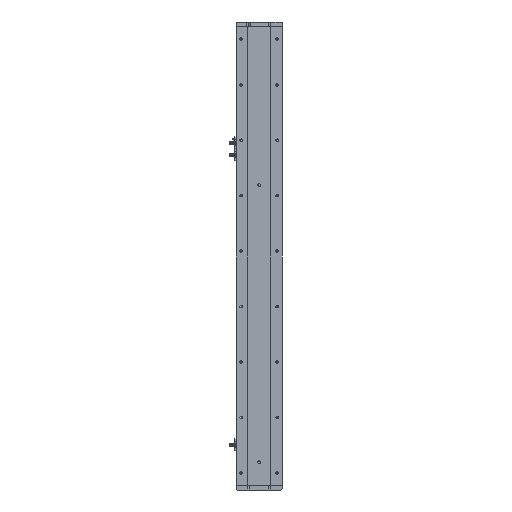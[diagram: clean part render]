
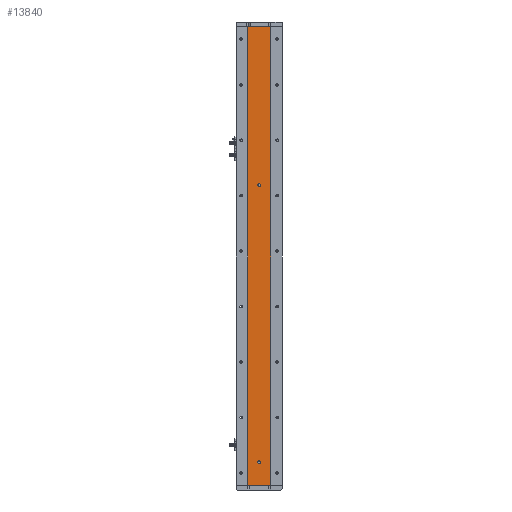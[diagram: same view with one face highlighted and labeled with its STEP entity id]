
A CAD part, left-side view. The second image highlights one B-rep face of the part: STEP entity #13840.
In plain terms, the highlighted planar face has unit normal (-1, 0, 0).
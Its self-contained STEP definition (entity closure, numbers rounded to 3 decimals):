
#526 = VERTEX_POINT ( 'NONE', #23596 ) ;
#791 = DIRECTION ( 'NONE',  ( 0., 0., -1. ) ) ;
#840 = VECTOR ( 'NONE', #791, 1000. ) ;
#1454 = DIRECTION ( 'NONE',  ( -1., 0., 0. ) ) ;
#2564 = DIRECTION ( 'NONE',  ( 0., 0., 1. ) ) ;
#2933 = VERTEX_POINT ( 'NONE', #9147 ) ;
#4996 = AXIS2_PLACEMENT_3D ( 'NONE', #39639, #21113, #2564 ) ;
#4999 = CARTESIAN_POINT ( 'NONE',  ( -18.926, 24.785, 993. ) ) ;
#5229 = FACE_OUTER_BOUND ( 'NONE', #39012, .T. ) ;
#5671 = CARTESIAN_POINT ( 'NONE',  ( -18.926, -24.785, 993. ) ) ;
#6768 = CARTESIAN_POINT ( 'NONE',  ( -18.926, 24.785, 993. ) ) ;
#6938 = CIRCLE ( 'NONE', #27043, 3. ) ;
#7419 = VERTEX_POINT ( 'NONE', #36259 ) ;
#9147 = CARTESIAN_POINT ( 'NONE',  ( -18.926, 0., 653. ) ) ;
#9764 = PLANE ( 'NONE',  #10304 ) ;
#9902 = DIRECTION ( 'NONE',  ( 0., 0., -1. ) ) ;
#10170 = LINE ( 'NONE', #18960, #18363 ) ;
#10304 = AXIS2_PLACEMENT_3D ( 'NONE', #6768, #28445, #9902 ) ;
#10766 = ORIENTED_EDGE ( 'NONE', *, *, #26460, .F. ) ;
#12033 = CIRCLE ( 'NONE', #24397, 3. ) ;
#12511 = FACE_BOUND ( 'NONE', #24652, .T. ) ;
#13652 = DIRECTION ( 'NONE',  ( -1., 0., 0. ) ) ;
#13653 = VECTOR ( 'NONE', #37286, 1000. ) ;
#13804 = VERTEX_POINT ( 'NONE', #34286 ) ;
#13840 = ADVANCED_FACE ( 'NONE', ( #28979, #12511, #5229 ), #9764, .F. ) ;
#14111 = VERTEX_POINT ( 'NONE', #4999 ) ;
#14417 = VERTEX_POINT ( 'NONE', #22629 ) ;
#15625 = EDGE_LOOP ( 'NONE', ( #27151, #10766 ) ) ;
#16426 = ORIENTED_EDGE ( 'NONE', *, *, #29309, .F. ) ;
#17265 = EDGE_CURVE ( 'NONE', #14417, #7419, #6938, .T. ) ;
#17596 = DIRECTION ( 'NONE',  ( -1., 0., 0. ) ) ;
#18363 = VECTOR ( 'NONE', #22235, 1000. ) ;
#18576 = ORIENTED_EDGE ( 'NONE', *, *, #26058, .T. ) ;
#18692 = CARTESIAN_POINT ( 'NONE',  ( -18.926, 24.785, 0. ) ) ;
#18713 = LINE ( 'NONE', #5671, #33286 ) ;
#18960 = CARTESIAN_POINT ( 'NONE',  ( -18.926, 24.785, 993. ) ) ;
#19106 = CARTESIAN_POINT ( 'NONE',  ( -18.926, 0., 647. ) ) ;
#19972 = CARTESIAN_POINT ( 'NONE',  ( -18.926, 0., 50. ) ) ;
#20217 = AXIS2_PLACEMENT_3D ( 'NONE', #32211, #13652, #35311 ) ;
#20527 = ORIENTED_EDGE ( 'NONE', *, *, #32963, .T. ) ;
#20838 = ORIENTED_EDGE ( 'NONE', *, *, #36710, .F. ) ;
#21113 = DIRECTION ( 'NONE',  ( -1., 0., 0. ) ) ;
#22235 = DIRECTION ( 'NONE',  ( 0., -1., 0. ) ) ;
#22423 = VERTEX_POINT ( 'NONE', #34172 ) ;
#22441 = CARTESIAN_POINT ( 'NONE',  ( -18.926, 24.785, 993. ) ) ;
#22629 = CARTESIAN_POINT ( 'NONE',  ( -18.926, 0., 53. ) ) ;
#23107 = DIRECTION ( 'NONE',  ( 0., 0., 1. ) ) ;
#23596 = CARTESIAN_POINT ( 'NONE',  ( -18.926, 24.785, 0. ) ) ;
#24397 = AXIS2_PLACEMENT_3D ( 'NONE', #19972, #1454, #23107 ) ;
#24571 = LINE ( 'NONE', #22441, #840 ) ;
#24652 = EDGE_LOOP ( 'NONE', ( #26247, #36056 ) ) ;
#25699 = CIRCLE ( 'NONE', #4996, 3. ) ;
#26058 = EDGE_CURVE ( 'NONE', #526, #22423, #37409, .T. ) ;
#26247 = ORIENTED_EDGE ( 'NONE', *, *, #17265, .F. ) ;
#26460 = EDGE_CURVE ( 'NONE', #39262, #2933, #25699, .T. ) ;
#27043 = AXIS2_PLACEMENT_3D ( 'NONE', #36188, #17596, #39270 ) ;
#27151 = ORIENTED_EDGE ( 'NONE', *, *, #37257, .F. ) ;
#28445 = DIRECTION ( 'NONE',  ( 1., 0., 0. ) ) ;
#28979 = FACE_BOUND ( 'NONE', #15625, .T. ) ;
#29309 = EDGE_CURVE ( 'NONE', #13804, #22423, #18713, .T. ) ;
#30429 = DIRECTION ( 'NONE',  ( 0., 0., -1. ) ) ;
#32211 = CARTESIAN_POINT ( 'NONE',  ( -18.926, 0., 650. ) ) ;
#32963 = EDGE_CURVE ( 'NONE', #14111, #526, #24571, .T. ) ;
#33286 = VECTOR ( 'NONE', #30429, 1000. ) ;
#34172 = CARTESIAN_POINT ( 'NONE',  ( -18.926, -24.785, 0. ) ) ;
#34286 = CARTESIAN_POINT ( 'NONE',  ( -18.926, -24.785, 993. ) ) ;
#35311 = DIRECTION ( 'NONE',  ( 0., 0., 1. ) ) ;
#36056 = ORIENTED_EDGE ( 'NONE', *, *, #37305, .F. ) ;
#36188 = CARTESIAN_POINT ( 'NONE',  ( -18.926, 0., 50. ) ) ;
#36259 = CARTESIAN_POINT ( 'NONE',  ( -18.926, 0., 47. ) ) ;
#36710 = EDGE_CURVE ( 'NONE', #14111, #13804, #10170, .T. ) ;
#37257 = EDGE_CURVE ( 'NONE', #2933, #39262, #37735, .T. ) ;
#37286 = DIRECTION ( 'NONE',  ( 0., -1., 0. ) ) ;
#37305 = EDGE_CURVE ( 'NONE', #7419, #14417, #12033, .T. ) ;
#37409 = LINE ( 'NONE', #18692, #13653 ) ;
#37735 = CIRCLE ( 'NONE', #20217, 3. ) ;
#39012 = EDGE_LOOP ( 'NONE', ( #18576, #16426, #20838, #20527 ) ) ;
#39262 = VERTEX_POINT ( 'NONE', #19106 ) ;
#39270 = DIRECTION ( 'NONE',  ( 0., 0., 1. ) ) ;
#39639 = CARTESIAN_POINT ( 'NONE',  ( -18.926, 0., 650. ) ) ;
